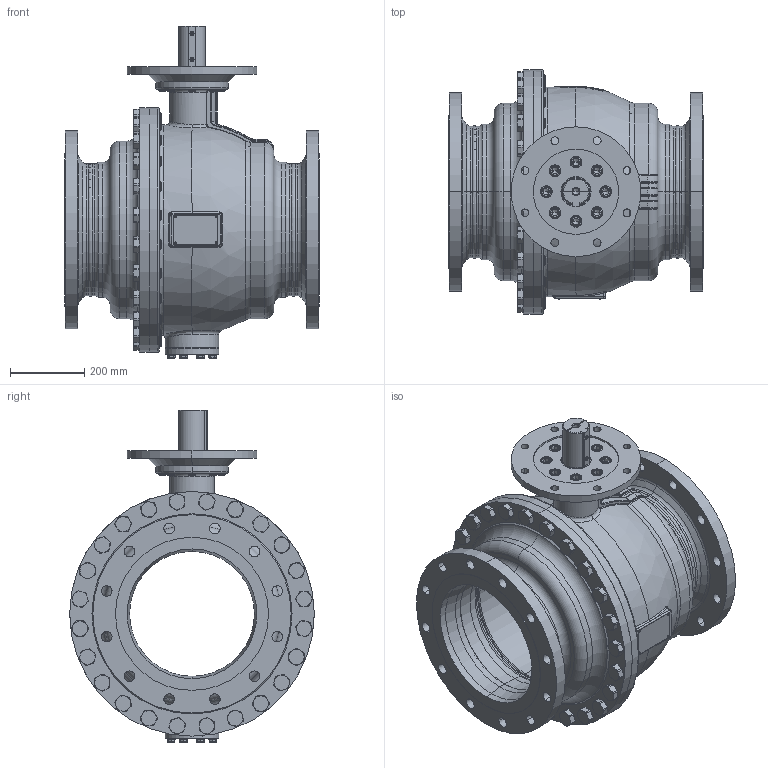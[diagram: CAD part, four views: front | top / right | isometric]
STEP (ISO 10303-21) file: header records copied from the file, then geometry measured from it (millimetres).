
FILE_DESCRIPTION((''),'2;1');
FILE_NAME('KHI-F_350_CL150-F30-P_SW0001','2026-02-05T15:58:06',('fischerkl'),('KLINGER'),'CREO PARAMETRIC BY PTC INC, 2023014','CREO PARAMETRIC BY PTC INC, 2023014','');
FILE_SCHEMA(('CONFIG_CONTROL_DESIGN'));
Products named in the file (1): KHI-F_350_CL150-F30-P_SW0001
Bounding box: 686 x 660 x 895.8 mm (x, y, z)
Volume: 45176460.1 mm3; surface area: 6032996.6 mm2
Topology: 1 solids, 4 shells, 3422 faces, 8625 edges, 5381 vertices
Faces by surface type: plane 1745, cylinder 791, cone 454, torus 303, bspline 99, sphere 30
Entity records: 144201 total; most frequent: CARTESIAN_POINT 62733, ORIENTED_EDGE 17198, DIRECTION 16882, EDGE_CURVE 8599, AXIS2_PLACEMENT_3D 6438, VERTEX_POINT 5381, VECTOR 4006, LINE 4006
